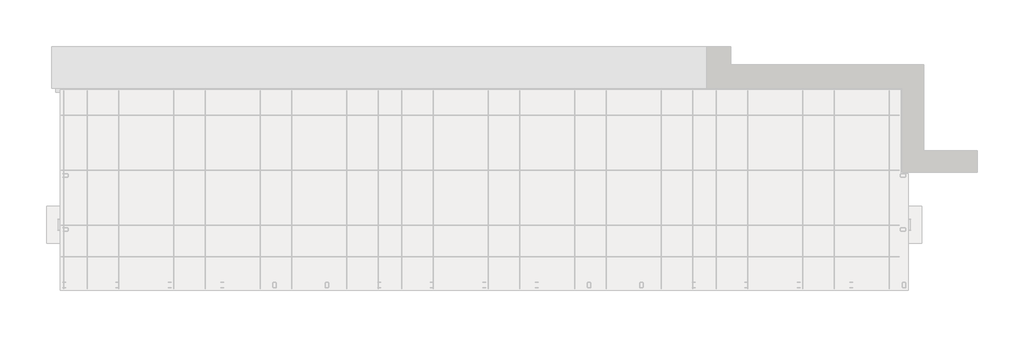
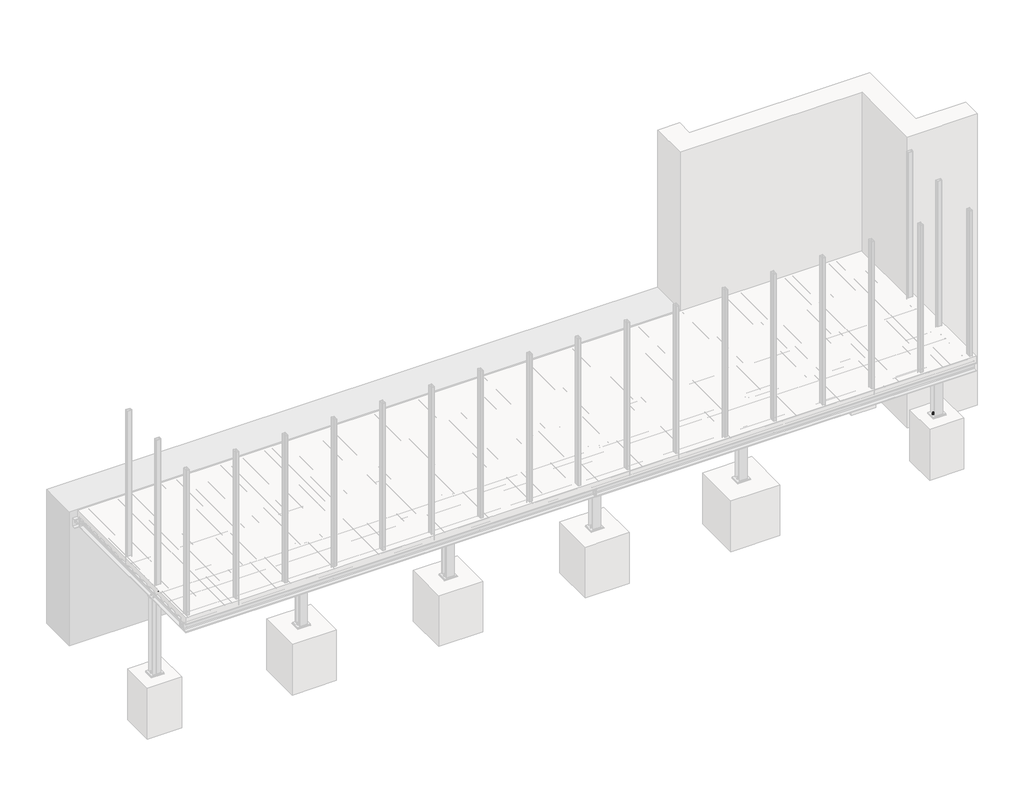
# One storey, part 19 of 36: 12 assemblies, 4 proxies.
"""IFC4 building model written with IfcOpenShell, lengths in millimetres."""

from ifc_helpers import new_model, si_unit, point, frame, frame_2d, origin, place, context, project, spatial, polyline, circle_curve, trimmed, segment, composite_curve, outline, extrude, faceted_brep, element, save

model = new_model("IFC4")

# Units and contexts
model_context = context("Model", 3, world=origin())
ifc_project = project(units=[si_unit("LENGTHUNIT", "METRE", prefix="MILLI")], contexts=[model_context])

# Site, building, storey
site = spatial("IfcSite", under=ifc_project)
building = spatial("IfcBuilding", under=site)
storey = spatial("IfcBuildingStorey", under=building, Name="Základy", Elevation=-1200.0)

# Proxies
placement = place(None, origin())
element("IfcBuildingElementProxy", 1, Name="PLECH", ObjectType="PLECH", at=placement, inside=storey, context=model_context, shape_type="SweptSolid", body=[
    extrude(outline(polyline([(16140.0, 1346.0), (16140.0, 1174.0), (15960.0, 1174.0), (15960.0, 1346.0), (16140.0, 1346.0)])), frame((0.0, 0.0, -350.0), z_axis=(0.0, 0.0, 1.0), x_axis=(1.0, 0.0, 0.0)), (0.0, 0.0, 1.0), 10.0),
])
element("IfcBuildingElementProxy", 2, Name="PLECH", ObjectType="PLECH", at=placement, inside=storey, context=model_context, shape_type="SweptSolid", body=[
    extrude(outline(composite_curve([segment(polyline([(-174.0, 15960.0), (-326.0, 15960.0), (-326.0, 16020.5)]), True, "CONTINUOUS"), segment(trimmed(circle_curve(frame_2d((-326.0, 16045.5)), 25.0), [point((-326.0, 16020.5))], [point((-301.0, 16045.5))], True, "CARTESIAN"), True, "CONTINUOUS"), segment(polyline([(-301.0, 16045.5), (-199.0, 16045.5)]), True, "CONTINUOUS"), segment(trimmed(circle_curve(frame_2d((-174.0, 16045.5)), 25.0), [point((-199.0, 16045.5))], [point((-174.0, 16020.5))], True, "CARTESIAN"), True, "CONTINUOUS"), segment(polyline([(-174.0, 16020.5), (-174.0, 15960.0)]), True, "CONTINUOUS")], self_intersect=False)), frame((0.0, 1256.0, 0.0), z_axis=(0.0, 1.0, 0.0), x_axis=(0.0, 0.0, 1.0)), (0.0, 0.0, 1.0), 8.0),
])
element("IfcBuildingElementProxy", 3, Name="Bolt assembly", ObjectType="Bolt assembly", at=placement, inside=storey, context=model_context, shape_type="SweptSolid", body=[
    extrude(outline(polyline([(15982.7364934, 1260.0), (15978.8682467, 1253.3000002), (15971.1317533, 1253.3000002), (15967.2635066, 1260.0), (15971.1317533, 1266.6999998), (15978.8682467, 1266.6999998), (15982.7364934, 1260.0)])), frame((0.0, 0.0, -2122.0), z_axis=(0.0, 0.0, 1.0), x_axis=(1.0, 0.0, 0.0)), (0.0, 0.0, 1.0), 132.0),
    extrude(outline(composite_curve([segment(trimmed(circle_curve(frame_2d((15975.0, 1260.0)), 8.0), [point((15983.0, 1260.0))], [point((15967.0, 1260.0))], False, "CARTESIAN"), True, "CONTINUOUS"), segment(trimmed(circle_curve(frame_2d((15975.0, 1260.0)), 8.0), [point((15967.0, 1260.0))], [point((15983.0, 1260.0))], False, "CARTESIAN"), True, "CONTINUOUS")], self_intersect=False)), frame((0.0, 0.0, -1990.0), z_axis=(0.0, 0.0, 1.0), x_axis=(1.0, 0.0, 0.0)), (0.0, 0.0, 1.0), 58.0),
    extrude(outline(composite_curve([segment(trimmed(circle_curve(frame_2d((15975.0, 1260.0)), 15.0), [point((15990.0, 1260.0))], [point((15960.0, 1260.0))], False, "CARTESIAN"), True, "CONTINUOUS"), segment(trimmed(circle_curve(frame_2d((15975.0, 1260.0)), 15.0), [point((15960.0, 1260.0))], [point((15990.0, 1260.0))], False, "CARTESIAN"), True, "CONTINUOUS")], self_intersect=False)), frame((0.0, 0.0, -1975.0), z_axis=(0.0, 0.0, 1.0), x_axis=(1.0, 0.0, 0.0)), (0.0, 0.0, 1.0), 3.0),
    extrude(outline(polyline([(15990.4441197, 1260.0), (15982.7220599, 1246.625), (15967.2779401, 1246.625), (15959.5558803, 1260.0), (15967.2779401, 1273.375), (15982.7220599, 1273.375), (15990.4441197, 1260.0)])), frame((0.0, 0.0, -1972.0), z_axis=(0.0, 0.0, 1.0), x_axis=(1.0, 0.0, 0.0)), (0.0, 0.0, 1.0), 13.0),
    extrude(outline(composite_curve([segment(trimmed(circle_curve(frame_2d((15975.0, 1260.0)), 9.0), [point((15984.0, 1260.0))], [point((15966.0, 1260.0))], False, "CARTESIAN"), True, "CONTINUOUS"), segment(trimmed(circle_curve(frame_2d((15975.0, 1260.0)), 9.0), [point((15966.0, 1260.0))], [point((15984.0, 1260.0))], False, "CARTESIAN"), True, "CONTINUOUS")], self_intersect=False)), frame((0.0, 0.0, -1990.0), z_axis=(0.0, 0.0, 1.0), x_axis=(1.0, 0.0, 0.0)), (0.0, 0.0, 1.0), 15.1),
    extrude(outline(polyline([(16132.7364934, 1260.0), (16128.8682467, 1253.3000002), (16121.1317533, 1253.3000002), (16117.2635066, 1260.0), (16121.1317533, 1266.6999998), (16128.8682467, 1266.6999998), (16132.7364934, 1260.0)])), frame((0.0, 0.0, -2122.0), z_axis=(0.0, 0.0, 1.0), x_axis=(1.0, 0.0, 0.0)), (0.0, 0.0, 1.0), 132.0),
    extrude(outline(composite_curve([segment(trimmed(circle_curve(frame_2d((16125.0, 1260.0)), 8.0), [point((16133.0, 1260.0))], [point((16117.0, 1260.0))], False, "CARTESIAN"), True, "CONTINUOUS"), segment(trimmed(circle_curve(frame_2d((16125.0, 1260.0)), 8.0), [point((16117.0, 1260.0))], [point((16133.0, 1260.0))], False, "CARTESIAN"), True, "CONTINUOUS")], self_intersect=False)), frame((0.0, 0.0, -1990.0), z_axis=(0.0, 0.0, 1.0), x_axis=(1.0, 0.0, 0.0)), (0.0, 0.0, 1.0), 58.0),
    extrude(outline(composite_curve([segment(trimmed(circle_curve(frame_2d((16125.0, 1260.0)), 15.0), [point((16140.0, 1260.0))], [point((16110.0, 1260.0))], False, "CARTESIAN"), True, "CONTINUOUS"), segment(trimmed(circle_curve(frame_2d((16125.0, 1260.0)), 15.0), [point((16110.0, 1260.0))], [point((16140.0, 1260.0))], False, "CARTESIAN"), True, "CONTINUOUS")], self_intersect=False)), frame((0.0, 0.0, -1975.0), z_axis=(0.0, 0.0, 1.0), x_axis=(1.0, 0.0, 0.0)), (0.0, 0.0, 1.0), 3.0),
    extrude(outline(polyline([(16140.4441197, 1260.0), (16132.7220599, 1246.625), (16117.2779401, 1246.625), (16109.5558803, 1260.0), (16117.2779401, 1273.375), (16132.7220599, 1273.375), (16140.4441197, 1260.0)])), frame((0.0, 0.0, -1972.0), z_axis=(0.0, 0.0, 1.0), x_axis=(1.0, 0.0, 0.0)), (0.0, 0.0, 1.0), 13.0),
    extrude(outline(composite_curve([segment(trimmed(circle_curve(frame_2d((16125.0, 1260.0)), 9.0), [point((16134.0, 1260.0))], [point((16116.0, 1260.0))], False, "CARTESIAN"), True, "CONTINUOUS"), segment(trimmed(circle_curve(frame_2d((16125.0, 1260.0)), 9.0), [point((16116.0, 1260.0))], [point((16134.0, 1260.0))], False, "CARTESIAN"), True, "CONTINUOUS")], self_intersect=False)), frame((0.0, 0.0, -1990.0), z_axis=(0.0, 0.0, 1.0), x_axis=(1.0, 0.0, 0.0)), (0.0, 0.0, 1.0), 15.1),
])
element("IfcBuildingElementProxy", 4, Name="Bolt assembly", ObjectType="Bolt assembly", at=placement, inside=storey, context=model_context, shape_type="SweptSolid", body=[
    extrude(outline(composite_curve([segment(trimmed(circle_curve(frame_2d((16000.0, 1220.0)), 6.5), [point((16006.5, 1220.0))], [point((15993.5, 1220.0))], False, "CARTESIAN"), True, "CONTINUOUS"), segment(trimmed(circle_curve(frame_2d((16000.0, 1220.0)), 6.5), [point((15993.5, 1220.0))], [point((16006.5, 1220.0))], False, "CARTESIAN"), True, "CONTINUOUS")], self_intersect=False)), frame((0.0, 0.0, -350.0), z_axis=(0.0, 0.0, 1.0), x_axis=(1.0, 0.0, 0.0)), (0.0, 0.0, 1.0), 10.1),
    extrude(outline(polyline([(16010.3923048, 1220.0), (16005.1961524, 1211.0), (15994.8038476, 1211.0), (15989.6076952, 1220.0), (15994.8038476, 1229.0), (16005.1961524, 1229.0), (16010.3923048, 1220.0)])), frame((0.0, 0.0, -323.5), z_axis=(0.0, 0.0, 1.0), x_axis=(1.0, 0.0, 0.0)), (0.0, 0.0, 1.0), 7.5),
    extrude(outline(composite_curve([segment(trimmed(circle_curve(frame_2d((16000.0, 1220.0)), 6.0), [point((16006.0, 1220.0))], [point((15994.0, 1220.0))], False, "CARTESIAN"), True, "CONTINUOUS"), segment(trimmed(circle_curve(frame_2d((16000.0, 1220.0)), 6.0), [point((15994.0, 1220.0))], [point((16006.0, 1220.0))], False, "CARTESIAN"), True, "CONTINUOUS")], self_intersect=False)), frame((0.0, 0.0, -368.5), z_axis=(0.0, 0.0, 1.0), x_axis=(1.0, 0.0, 0.0)), (0.0, 0.0, 1.0), 45.0),
    extrude(outline(composite_curve([segment(trimmed(circle_curve(frame_2d((16000.0, 1220.0)), 12.0), [point((16012.0, 1220.0))], [point((15988.0, 1220.0))], False, "CARTESIAN"), True, "CONTINUOUS"), segment(trimmed(circle_curve(frame_2d((16000.0, 1220.0)), 12.0), [point((15988.0, 1220.0))], [point((16012.0, 1220.0))], False, "CARTESIAN"), True, "CONTINUOUS")], self_intersect=False)), frame((0.0, 0.0, -326.0), z_axis=(0.0, 0.0, 1.0), x_axis=(1.0, 0.0, 0.0)), (0.0, 0.0, 1.0), 2.5),
    extrude(outline(composite_curve([segment(trimmed(circle_curve(frame_2d((16000.0, 1220.0)), 12.0), [point((16012.0, 1220.0))], [point((15988.0, 1220.0))], False, "CARTESIAN"), True, "CONTINUOUS"), segment(trimmed(circle_curve(frame_2d((16000.0, 1220.0)), 12.0), [point((15988.0, 1220.0))], [point((16012.0, 1220.0))], False, "CARTESIAN"), True, "CONTINUOUS")], self_intersect=False)), frame((0.0, 0.0, -352.5), z_axis=(0.0, 0.0, 1.0), x_axis=(1.0, 0.0, 0.0)), (0.0, 0.0, 1.0), 2.5),
    extrude(outline(polyline([(16010.9696551, 1220.0), (16005.4848276, 1210.5), (15994.5151724, 1210.5), (15989.0303449, 1220.0), (15994.5151724, 1229.5), (16005.4848276, 1229.5), (16010.9696551, 1220.0)])), frame((0.0, 0.0, -362.5), z_axis=(0.0, 0.0, 1.0), x_axis=(1.0, 0.0, 0.0)), (0.0, 0.0, 1.0), 10.0),
    extrude(outline(composite_curve([segment(trimmed(circle_curve(frame_2d((16000.0, 1220.0)), 6.5), [point((16006.5, 1220.0))], [point((15993.5, 1220.0))], False, "CARTESIAN"), True, "CONTINUOUS"), segment(trimmed(circle_curve(frame_2d((16000.0, 1220.0)), 6.5), [point((15993.5, 1220.0))], [point((16006.5, 1220.0))], False, "CARTESIAN"), True, "CONTINUOUS")], self_intersect=False)), frame((0.0, 0.0, -340.1), z_axis=(0.0, 0.0, 1.0), x_axis=(1.0, 0.0, 0.0)), (0.0, 0.0, 1.0), 14.0),
    extrude(outline(composite_curve([segment(trimmed(circle_curve(frame_2d((16100.0, 1220.0)), 6.5), [point((16106.5, 1220.0))], [point((16093.5, 1220.0))], False, "CARTESIAN"), True, "CONTINUOUS"), segment(trimmed(circle_curve(frame_2d((16100.0, 1220.0)), 6.5), [point((16093.5, 1220.0))], [point((16106.5, 1220.0))], False, "CARTESIAN"), True, "CONTINUOUS")], self_intersect=False)), frame((0.0, 0.0, -350.0), z_axis=(0.0, 0.0, 1.0), x_axis=(1.0, 0.0, 0.0)), (0.0, 0.0, 1.0), 10.1),
    extrude(outline(polyline([(16110.3923048, 1220.0), (16105.1961524, 1211.0), (16094.8038476, 1211.0), (16089.6076952, 1220.0), (16094.8038476, 1229.0), (16105.1961524, 1229.0), (16110.3923048, 1220.0)])), frame((0.0, 0.0, -323.5), z_axis=(0.0, 0.0, 1.0), x_axis=(1.0, 0.0, 0.0)), (0.0, 0.0, 1.0), 7.5),
    extrude(outline(composite_curve([segment(trimmed(circle_curve(frame_2d((16100.0, 1220.0)), 6.0), [point((16106.0, 1220.0))], [point((16094.0, 1220.0))], False, "CARTESIAN"), True, "CONTINUOUS"), segment(trimmed(circle_curve(frame_2d((16100.0, 1220.0)), 6.0), [point((16094.0, 1220.0))], [point((16106.0, 1220.0))], False, "CARTESIAN"), True, "CONTINUOUS")], self_intersect=False)), frame((0.0, 0.0, -368.5), z_axis=(0.0, 0.0, 1.0), x_axis=(1.0, 0.0, 0.0)), (0.0, 0.0, 1.0), 45.0),
    extrude(outline(composite_curve([segment(trimmed(circle_curve(frame_2d((16100.0, 1220.0)), 12.0), [point((16112.0, 1220.0))], [point((16088.0, 1220.0))], False, "CARTESIAN"), True, "CONTINUOUS"), segment(trimmed(circle_curve(frame_2d((16100.0, 1220.0)), 12.0), [point((16088.0, 1220.0))], [point((16112.0, 1220.0))], False, "CARTESIAN"), True, "CONTINUOUS")], self_intersect=False)), frame((0.0, 0.0, -326.0), z_axis=(0.0, 0.0, 1.0), x_axis=(1.0, 0.0, 0.0)), (0.0, 0.0, 1.0), 2.5),
    extrude(outline(composite_curve([segment(trimmed(circle_curve(frame_2d((16100.0, 1220.0)), 12.0), [point((16112.0, 1220.0))], [point((16088.0, 1220.0))], False, "CARTESIAN"), True, "CONTINUOUS"), segment(trimmed(circle_curve(frame_2d((16100.0, 1220.0)), 12.0), [point((16088.0, 1220.0))], [point((16112.0, 1220.0))], False, "CARTESIAN"), True, "CONTINUOUS")], self_intersect=False)), frame((0.0, 0.0, -352.5), z_axis=(0.0, 0.0, 1.0), x_axis=(1.0, 0.0, 0.0)), (0.0, 0.0, 1.0), 2.5),
    extrude(outline(polyline([(16110.9696551, 1220.0), (16105.4848276, 1210.5), (16094.5151724, 1210.5), (16089.0303449, 1220.0), (16094.5151724, 1229.5), (16105.4848276, 1229.5), (16110.9696551, 1220.0)])), frame((0.0, 0.0, -362.5), z_axis=(0.0, 0.0, 1.0), x_axis=(1.0, 0.0, 0.0)), (0.0, 0.0, 1.0), 10.0),
    extrude(outline(composite_curve([segment(trimmed(circle_curve(frame_2d((16100.0, 1220.0)), 6.5), [point((16106.5, 1220.0))], [point((16093.5, 1220.0))], False, "CARTESIAN"), True, "CONTINUOUS"), segment(trimmed(circle_curve(frame_2d((16100.0, 1220.0)), 6.5), [point((16093.5, 1220.0))], [point((16106.5, 1220.0))], False, "CARTESIAN"), True, "CONTINUOUS")], self_intersect=False)), frame((0.0, 0.0, -340.1), z_axis=(0.0, 0.0, 1.0), x_axis=(1.0, 0.0, 0.0)), (0.0, 0.0, 1.0), 14.0),
    extrude(outline(composite_curve([segment(trimmed(circle_curve(frame_2d((16000.0, 1300.0)), 6.5), [point((16006.5, 1300.0))], [point((15993.5, 1300.0))], False, "CARTESIAN"), True, "CONTINUOUS"), segment(trimmed(circle_curve(frame_2d((16000.0, 1300.0)), 6.5), [point((15993.5, 1300.0))], [point((16006.5, 1300.0))], False, "CARTESIAN"), True, "CONTINUOUS")], self_intersect=False)), frame((0.0, 0.0, -350.0), z_axis=(0.0, 0.0, 1.0), x_axis=(1.0, 0.0, 0.0)), (0.0, 0.0, 1.0), 10.1),
    extrude(outline(polyline([(16010.3923048, 1300.0), (16005.1961524, 1291.0), (15994.8038476, 1291.0), (15989.6076952, 1300.0), (15994.8038476, 1309.0), (16005.1961524, 1309.0), (16010.3923048, 1300.0)])), frame((0.0, 0.0, -323.5), z_axis=(0.0, 0.0, 1.0), x_axis=(1.0, 0.0, 0.0)), (0.0, 0.0, 1.0), 7.5),
    extrude(outline(composite_curve([segment(trimmed(circle_curve(frame_2d((16000.0, 1300.0)), 6.0), [point((16006.0, 1300.0))], [point((15994.0, 1300.0))], False, "CARTESIAN"), True, "CONTINUOUS"), segment(trimmed(circle_curve(frame_2d((16000.0, 1300.0)), 6.0), [point((15994.0, 1300.0))], [point((16006.0, 1300.0))], False, "CARTESIAN"), True, "CONTINUOUS")], self_intersect=False)), frame((0.0, 0.0, -368.5), z_axis=(0.0, 0.0, 1.0), x_axis=(1.0, 0.0, 0.0)), (0.0, 0.0, 1.0), 45.0),
    extrude(outline(composite_curve([segment(trimmed(circle_curve(frame_2d((16000.0, 1300.0)), 12.0), [point((16012.0, 1300.0))], [point((15988.0, 1300.0))], False, "CARTESIAN"), True, "CONTINUOUS"), segment(trimmed(circle_curve(frame_2d((16000.0, 1300.0)), 12.0), [point((15988.0, 1300.0))], [point((16012.0, 1300.0))], False, "CARTESIAN"), True, "CONTINUOUS")], self_intersect=False)), frame((0.0, 0.0, -326.0), z_axis=(0.0, 0.0, 1.0), x_axis=(1.0, 0.0, 0.0)), (0.0, 0.0, 1.0), 2.5),
    extrude(outline(composite_curve([segment(trimmed(circle_curve(frame_2d((16000.0, 1300.0)), 12.0), [point((16012.0, 1300.0))], [point((15988.0, 1300.0))], False, "CARTESIAN"), True, "CONTINUOUS"), segment(trimmed(circle_curve(frame_2d((16000.0, 1300.0)), 12.0), [point((15988.0, 1300.0))], [point((16012.0, 1300.0))], False, "CARTESIAN"), True, "CONTINUOUS")], self_intersect=False)), frame((0.0, 0.0, -352.5), z_axis=(0.0, 0.0, 1.0), x_axis=(1.0, 0.0, 0.0)), (0.0, 0.0, 1.0), 2.5),
    extrude(outline(polyline([(16010.9696551, 1300.0), (16005.4848276, 1290.5), (15994.5151724, 1290.5), (15989.0303449, 1300.0), (15994.5151724, 1309.5), (16005.4848276, 1309.5), (16010.9696551, 1300.0)])), frame((0.0, 0.0, -362.5), z_axis=(0.0, 0.0, 1.0), x_axis=(1.0, 0.0, 0.0)), (0.0, 0.0, 1.0), 10.0),
    extrude(outline(composite_curve([segment(trimmed(circle_curve(frame_2d((16000.0, 1300.0)), 6.5), [point((16006.5, 1300.0))], [point((15993.5, 1300.0))], False, "CARTESIAN"), True, "CONTINUOUS"), segment(trimmed(circle_curve(frame_2d((16000.0, 1300.0)), 6.5), [point((15993.5, 1300.0))], [point((16006.5, 1300.0))], False, "CARTESIAN"), True, "CONTINUOUS")], self_intersect=False)), frame((0.0, 0.0, -340.1), z_axis=(0.0, 0.0, 1.0), x_axis=(1.0, 0.0, 0.0)), (0.0, 0.0, 1.0), 14.0),
    extrude(outline(composite_curve([segment(trimmed(circle_curve(frame_2d((16100.0, 1300.0)), 6.5), [point((16106.5, 1300.0))], [point((16093.5, 1300.0))], False, "CARTESIAN"), True, "CONTINUOUS"), segment(trimmed(circle_curve(frame_2d((16100.0, 1300.0)), 6.5), [point((16093.5, 1300.0))], [point((16106.5, 1300.0))], False, "CARTESIAN"), True, "CONTINUOUS")], self_intersect=False)), frame((0.0, 0.0, -350.0), z_axis=(0.0, 0.0, 1.0), x_axis=(1.0, 0.0, 0.0)), (0.0, 0.0, 1.0), 10.1),
    extrude(outline(polyline([(16110.3923048, 1300.0), (16105.1961524, 1291.0), (16094.8038476, 1291.0), (16089.6076952, 1300.0), (16094.8038476, 1309.0), (16105.1961524, 1309.0), (16110.3923048, 1300.0)])), frame((0.0, 0.0, -323.5), z_axis=(0.0, 0.0, 1.0), x_axis=(1.0, 0.0, 0.0)), (0.0, 0.0, 1.0), 7.5),
    extrude(outline(composite_curve([segment(trimmed(circle_curve(frame_2d((16100.0, 1300.0)), 6.0), [point((16106.0, 1300.0))], [point((16094.0, 1300.0))], False, "CARTESIAN"), True, "CONTINUOUS"), segment(trimmed(circle_curve(frame_2d((16100.0, 1300.0)), 6.0), [point((16094.0, 1300.0))], [point((16106.0, 1300.0))], False, "CARTESIAN"), True, "CONTINUOUS")], self_intersect=False)), frame((0.0, 0.0, -368.5), z_axis=(0.0, 0.0, 1.0), x_axis=(1.0, 0.0, 0.0)), (0.0, 0.0, 1.0), 45.0),
    extrude(outline(composite_curve([segment(trimmed(circle_curve(frame_2d((16100.0, 1300.0)), 12.0), [point((16112.0, 1300.0))], [point((16088.0, 1300.0))], False, "CARTESIAN"), True, "CONTINUOUS"), segment(trimmed(circle_curve(frame_2d((16100.0, 1300.0)), 12.0), [point((16088.0, 1300.0))], [point((16112.0, 1300.0))], False, "CARTESIAN"), True, "CONTINUOUS")], self_intersect=False)), frame((0.0, 0.0, -326.0), z_axis=(0.0, 0.0, 1.0), x_axis=(1.0, 0.0, 0.0)), (0.0, 0.0, 1.0), 2.5),
    extrude(outline(composite_curve([segment(trimmed(circle_curve(frame_2d((16100.0, 1300.0)), 12.0), [point((16112.0, 1300.0))], [point((16088.0, 1300.0))], False, "CARTESIAN"), True, "CONTINUOUS"), segment(trimmed(circle_curve(frame_2d((16100.0, 1300.0)), 12.0), [point((16088.0, 1300.0))], [point((16112.0, 1300.0))], False, "CARTESIAN"), True, "CONTINUOUS")], self_intersect=False)), frame((0.0, 0.0, -352.5), z_axis=(0.0, 0.0, 1.0), x_axis=(1.0, 0.0, 0.0)), (0.0, 0.0, 1.0), 2.5),
    extrude(outline(polyline([(16110.9696551, 1300.0), (16105.4848276, 1290.5), (16094.5151724, 1290.5), (16089.0303449, 1300.0), (16094.5151724, 1309.5), (16105.4848276, 1309.5), (16110.9696551, 1300.0)])), frame((0.0, 0.0, -362.5), z_axis=(0.0, 0.0, 1.0), x_axis=(1.0, 0.0, 0.0)), (0.0, 0.0, 1.0), 10.0),
    extrude(outline(composite_curve([segment(trimmed(circle_curve(frame_2d((16100.0, 1300.0)), 6.5), [point((16106.5, 1300.0))], [point((16093.5, 1300.0))], False, "CARTESIAN"), True, "CONTINUOUS"), segment(trimmed(circle_curve(frame_2d((16100.0, 1300.0)), 6.5), [point((16093.5, 1300.0))], [point((16106.5, 1300.0))], False, "CARTESIAN"), True, "CONTINUOUS")], self_intersect=False)), frame((0.0, 0.0, -340.1), z_axis=(0.0, 0.0, 1.0), x_axis=(1.0, 0.0, 0.0)), (0.0, 0.0, 1.0), 14.0),
])

# Assemblies
element("IfcElementAssembly", 5, at=placement, inside=storey, context=model_context, shape_type="SweptSolid", body=[
    extrude(outline(composite_curve([segment(polyline([(10.0, 1146.4), (10.0, 1193.6)]), True, "CONTINUOUS"), segment(trimmed(circle_curve(frame_2d((16.4, 1193.6)), 6.4), [point((10.0, 1193.6))], [point((16.4, 1200.0))], False, "CARTESIAN"), True, "CONTINUOUS"), segment(polyline([(16.4, 1200.0), (103.6, 1200.0)]), True, "CONTINUOUS"), segment(trimmed(circle_curve(frame_2d((103.6, 1193.6)), 6.4), [point((103.6, 1200.0))], [point((110.0, 1193.6))], False, "CARTESIAN"), True, "CONTINUOUS"), segment(polyline([(110.0, 1193.6), (110.0, 1146.4)]), True, "CONTINUOUS"), segment(trimmed(circle_curve(frame_2d((103.6, 1146.4)), 6.4), [point((110.0, 1146.4))], [point((103.6, 1140.0))], False, "CARTESIAN"), True, "CONTINUOUS"), segment(polyline([(103.6, 1140.0), (16.4, 1140.0)]), True, "CONTINUOUS"), segment(trimmed(circle_curve(frame_2d((16.4, 1146.4)), 6.4), [point((16.4, 1140.0))], [point((10.0, 1146.4))], False, "CARTESIAN"), True, "CONTINUOUS")], self_intersect=False), holes=[composite_curve([segment(trimmed(circle_curve(frame_2d((16.4, 1146.4)), 3.2), [point((13.2, 1146.4))], [point((16.4, 1143.2))], True, "CARTESIAN"), True, "CONTINUOUS"), segment(polyline([(16.4, 1143.2), (103.6, 1143.2)]), True, "CONTINUOUS"), segment(trimmed(circle_curve(frame_2d((103.6, 1146.4)), 3.2), [point((103.6, 1143.2))], [point((106.8, 1146.4))], True, "CARTESIAN"), True, "CONTINUOUS"), segment(polyline([(106.8, 1146.4), (106.8, 1193.6)]), True, "CONTINUOUS"), segment(trimmed(circle_curve(frame_2d((103.6, 1193.6)), 3.2), [point((106.8, 1193.6))], [point((103.6, 1196.8))], True, "CARTESIAN"), True, "CONTINUOUS"), segment(polyline([(103.6, 1196.8), (16.4, 1196.8)]), True, "CONTINUOUS"), segment(trimmed(circle_curve(frame_2d((16.4, 1193.6)), 3.2), [point((16.4, 1196.8))], [point((13.2, 1193.6))], True, "CARTESIAN"), True, "CONTINUOUS"), segment(polyline([(13.2, 1193.6), (13.2, 1146.4)]), True, "CONTINUOUS")], self_intersect=False)]), frame((0.0, 0.0, -160.0), z_axis=(0.0, 0.0, 1.0), x_axis=(1.0, 0.0, 0.0)), (0.0, 0.0, 1.0), 3280.0),
])
element("IfcElementAssembly", 6, at=placement, inside=storey, context=model_context, shape_type="SweptSolid", body=[
    extrude(outline(polyline([(400.0, 1610.0), (400.0, 910.0), (-300.0, 910.0), (-300.0, 1610.0), (400.0, 1610.0)])), frame((0.0, 0.0, -3100.0), z_axis=(0.0, 0.0, 1.0), x_axis=(1.0, 0.0, 0.0)), (0.0, 0.0, 1.0), 1100.0),
])
element("IfcElementAssembly", 7, at=placement, inside=storey, context=model_context, shape_type="SweptSolid", body=[
    extrude(outline(polyline([(802.7875602, -160.0099992), (772.2875602, -111.5000008), (637.6975638, -111.5000008), (607.1975638, -160.0000008), (552.7875754, -160.0000008), (522.2875754, -111.5000008), (387.6975715, -111.5000008), (357.1975715, -160.0000008), (302.7875697, -160.0000008), (272.2875716, -111.5000008), (160.0, -111.5000008), (160.0, -110.7500008), (272.6975715, -110.7500008), (303.1975695, -159.2500008), (356.7875716, -159.2500008), (387.2875678, -110.7500008), (522.6975638, -110.7500008), (553.1975638, -159.2500008), (606.7875602, -159.2500008), (637.2875602, -110.7500008), (772.6975638, -110.7500008), (803.1975638, -159.2500008), (839.9975821, -160.0000008), (802.7875602, -160.0099992)])), frame((-40.0, 0.0, 0.0), z_axis=(1.0, 0.0, 0.0), x_axis=(0.0, 1.0, 0.0)), (0.0, 0.0, 1.0), 3180.0),
])
element("IfcElementAssembly", 8, at=placement, inside=storey, context=model_context, shape_type="SweptSolid", body=[
    extrude(outline(composite_curve([segment(polyline([(1073.6, 60.0), (1026.4, 60.0)]), True, "CONTINUOUS"), segment(trimmed(circle_curve(frame_2d((1026.4, 66.4)), 6.4), [point((1026.4, 60.0))], [point((1020.0, 66.4))], False, "CARTESIAN"), True, "CONTINUOUS"), segment(polyline([(1020.0, 66.4), (1020.0, 153.6)]), True, "CONTINUOUS"), segment(trimmed(circle_curve(frame_2d((1026.4, 153.6)), 6.4), [point((1020.0, 153.6))], [point((1026.4, 160.0))], False, "CARTESIAN"), True, "CONTINUOUS"), segment(polyline([(1026.4, 160.0), (1073.6, 160.0)]), True, "CONTINUOUS"), segment(trimmed(circle_curve(frame_2d((1073.6, 153.6)), 6.4), [point((1073.6, 160.0))], [point((1080.0, 153.6))], False, "CARTESIAN"), True, "CONTINUOUS"), segment(polyline([(1080.0, 153.6), (1080.0, 66.4)]), True, "CONTINUOUS"), segment(trimmed(circle_curve(frame_2d((1073.6, 66.4)), 6.4), [point((1080.0, 66.4))], [point((1073.6, 60.0))], False, "CARTESIAN"), True, "CONTINUOUS")], self_intersect=False), holes=[composite_curve([segment(trimmed(circle_curve(frame_2d((1073.6, 66.4)), 3.2), [point((1073.6, 63.2))], [point((1076.8, 66.4))], True, "CARTESIAN"), True, "CONTINUOUS"), segment(polyline([(1076.8, 66.4), (1076.8, 153.6)]), True, "CONTINUOUS"), segment(trimmed(circle_curve(frame_2d((1073.6, 153.6)), 3.2), [point((1076.8, 153.6))], [point((1073.6, 156.8))], True, "CARTESIAN"), True, "CONTINUOUS"), segment(polyline([(1073.6, 156.8), (1026.4, 156.8)]), True, "CONTINUOUS"), segment(trimmed(circle_curve(frame_2d((1026.4, 153.6)), 3.2), [point((1026.4, 156.8))], [point((1023.2, 153.6))], True, "CARTESIAN"), True, "CONTINUOUS"), segment(polyline([(1023.2, 153.6), (1023.2, 66.4)]), True, "CONTINUOUS"), segment(trimmed(circle_curve(frame_2d((1026.4, 66.4)), 3.2), [point((1023.2, 66.4))], [point((1026.4, 63.2))], True, "CARTESIAN"), True, "CONTINUOUS"), segment(polyline([(1026.4, 63.2), (1073.6, 63.2)]), True, "CONTINUOUS")], self_intersect=False)]), frame((0.0, 0.0, -160.0), z_axis=(0.0, 0.0, 1.0), x_axis=(1.0, 0.0, 0.0)), (0.0, 0.0, 1.0), 3320.0),
])
element("IfcElementAssembly", 9, at=placement, inside=storey, context=model_context, shape_type="SweptSolid", body=[
    extrude(outline(composite_curve([segment(polyline([(63.6, 60.0), (16.4, 60.0)]), True, "CONTINUOUS"), segment(trimmed(circle_curve(frame_2d((16.4, 66.4)), 6.4), [point((16.4, 60.0))], [point((10.0, 66.4))], False, "CARTESIAN"), True, "CONTINUOUS"), segment(polyline([(10.0, 66.4), (10.0, 153.6)]), True, "CONTINUOUS"), segment(trimmed(circle_curve(frame_2d((16.4, 153.6)), 6.4), [point((10.0, 153.6))], [point((16.4, 160.0))], False, "CARTESIAN"), True, "CONTINUOUS"), segment(polyline([(16.4, 160.0), (63.6, 160.0)]), True, "CONTINUOUS"), segment(trimmed(circle_curve(frame_2d((63.6, 153.6)), 6.4), [point((63.6, 160.0))], [point((70.0, 153.6))], False, "CARTESIAN"), True, "CONTINUOUS"), segment(polyline([(70.0, 153.6), (70.0, 66.4)]), True, "CONTINUOUS"), segment(trimmed(circle_curve(frame_2d((63.6, 66.4)), 6.4), [point((70.0, 66.4))], [point((63.6, 60.0))], False, "CARTESIAN"), True, "CONTINUOUS")], self_intersect=False), holes=[composite_curve([segment(trimmed(circle_curve(frame_2d((63.6, 66.4)), 3.2), [point((63.6, 63.2))], [point((66.8, 66.4))], True, "CARTESIAN"), True, "CONTINUOUS"), segment(polyline([(66.8, 66.4), (66.8, 153.6)]), True, "CONTINUOUS"), segment(trimmed(circle_curve(frame_2d((63.6, 153.6)), 3.2), [point((66.8, 153.6))], [point((63.6, 156.8))], True, "CARTESIAN"), True, "CONTINUOUS"), segment(polyline([(63.6, 156.8), (16.4, 156.8)]), True, "CONTINUOUS"), segment(trimmed(circle_curve(frame_2d((16.4, 153.6)), 3.2), [point((16.4, 156.8))], [point((13.2, 153.6))], True, "CARTESIAN"), True, "CONTINUOUS"), segment(polyline([(13.2, 153.6), (13.2, 66.4)]), True, "CONTINUOUS"), segment(trimmed(circle_curve(frame_2d((16.4, 66.4)), 3.2), [point((13.2, 66.4))], [point((16.4, 63.2))], True, "CARTESIAN"), True, "CONTINUOUS"), segment(polyline([(16.4, 63.2), (63.6, 63.2)]), True, "CONTINUOUS")], self_intersect=False)]), frame((0.0, 0.0, -160.0), z_axis=(0.0, 0.0, 1.0), x_axis=(1.0, 0.0, 0.0)), (0.0, 0.0, 1.0), 3280.0),
])
element("IfcElementAssembly", 10, at=placement, inside=storey, context=model_context, shape_type="SweptSolid", body=[
    extrude(outline(composite_curve([segment(polyline([(-340.0, -40.0), (-340.0, 140.0), (-326.0, 140.0), (-326.0, 69.25)]), True, "CONTINUOUS"), segment(trimmed(circle_curve(frame_2d((-311.0, 69.25)), 15.0), [point((-326.0, 69.25))], [point((-311.0, 54.25))], True, "CARTESIAN"), True, "CONTINUOUS"), segment(polyline([(-311.0, 54.25), (-189.0, 54.25)]), True, "CONTINUOUS"), segment(trimmed(circle_curve(frame_2d((-189.0, 69.25)), 15.0), [point((-189.0, 54.25))], [point((-174.0, 69.25))], True, "CARTESIAN"), True, "CONTINUOUS"), segment(polyline([(-174.0, 69.25), (-174.0, 140.0), (-160.0, 140.0), (-160.0, -40.0), (-174.0, -40.0), (-174.0, 30.75)]), True, "CONTINUOUS"), segment(trimmed(circle_curve(frame_2d((-189.0, 30.75)), 15.0), [point((-174.0, 30.75))], [point((-189.0, 45.75))], True, "CARTESIAN"), True, "CONTINUOUS"), segment(polyline([(-189.0, 45.75), (-311.0, 45.75)]), True, "CONTINUOUS"), segment(trimmed(circle_curve(frame_2d((-311.0, 30.75)), 15.0), [point((-311.0, 45.75))], [point((-326.0, 30.75))], True, "CARTESIAN"), True, "CONTINUOUS"), segment(polyline([(-326.0, 30.75), (-326.0, -40.0), (-340.0, -40.0)]), True, "CONTINUOUS")], self_intersect=False)), frame((0.0, 210.0, 0.0), z_axis=(0.0, 1.0, 0.0), x_axis=(0.0, 0.0, 1.0)), (0.0, 0.0, 1.0), 3557.0),
    extrude(outline(polyline([(-40.0, 3775.0), (140.0, 3775.0), (140.0, 3767.0), (-40.0, 3767.0), (-40.0, 3775.0)])), frame((0.0, 0.0, -316.0), z_axis=(0.0, 0.0, 1.0), x_axis=(1.0, 0.0, 0.0)), (0.0, 0.0, 1.0), 132.0),
    extrude(outline(polyline([(140.0, 1200.0), (140.0, 1320.0), (150.0, 1320.0), (150.0, 1200.0), (140.0, 1200.0)])), frame((0.0, 0.0, -332.0), z_axis=(0.0, 0.0, 1.0), x_axis=(1.0, 0.0, 0.0)), (0.0, 0.0, 1.0), 164.0),
    extrude(outline(composite_curve([segment(polyline([(-174.0, 140.0), (-174.0, 79.5)]), True, "CONTINUOUS"), segment(trimmed(circle_curve(frame_2d((-174.0, 54.5)), 25.0), [point((-174.0, 79.5))], [point((-199.0, 54.5))], True, "CARTESIAN"), True, "CONTINUOUS"), segment(polyline([(-199.0, 54.5), (-301.0, 54.5)]), True, "CONTINUOUS"), segment(trimmed(circle_curve(frame_2d((-326.0, 54.5)), 25.0), [point((-301.0, 54.5))], [point((-326.0, 79.5))], True, "CARTESIAN"), True, "CONTINUOUS"), segment(polyline([(-326.0, 79.5), (-326.0, 140.0), (-174.0, 140.0)]), True, "CONTINUOUS")], self_intersect=False)), frame((0.0, 1256.0, 0.0), z_axis=(0.0, 1.0, 0.0), x_axis=(0.0, 0.0, 1.0)), (0.0, 0.0, 1.0), 8.0),
    extrude(outline(polyline([(-40.0, 210.0), (140.0, 210.0), (140.0, 200.0), (-40.0, 200.0), (-40.0, 210.0)])), frame((0.0, 0.0, -332.0), z_axis=(0.0, 0.0, 1.0), x_axis=(1.0, 0.0, 0.0)), (0.0, 0.0, 1.0), 164.0),
    extrude(outline(composite_curve([segment(trimmed(circle_curve(frame_2d((1230.0, -225.0)), 6.5), [point((1230.0, -231.5))], [point((1230.0, -218.5))], False, "CARTESIAN"), True, "CONTINUOUS"), segment(trimmed(circle_curve(frame_2d((1230.0, -225.0)), 6.5), [point((1230.0, -218.5))], [point((1230.0, -231.5))], False, "CARTESIAN"), True, "CONTINUOUS")], self_intersect=False)), frame((140.1, 0.0, 0.0), z_axis=(1.0, 0.0, 0.0), x_axis=(0.0, 1.0, 0.0)), (0.0, 0.0, 1.0), 10.0),
    extrude(outline(polyline([(1230.0, -235.3923048), (1221.0, -230.1961524), (1221.0, -219.8038476), (1230.0, -214.6076952), (1239.0, -219.8038476), (1239.0, -230.1961524), (1230.0, -235.3923048)])), frame((130.0, 0.0, 0.0), z_axis=(1.0, 0.0, 0.0), x_axis=(0.0, 1.0, 0.0)), (0.0, 0.0, 1.0), 7.5),
    extrude(outline(composite_curve([segment(trimmed(circle_curve(frame_2d((1230.0, -225.0)), 6.0), [point((1230.0, -231.0))], [point((1230.0, -219.0))], False, "CARTESIAN"), True, "CONTINUOUS"), segment(trimmed(circle_curve(frame_2d((1230.0, -225.0)), 6.0), [point((1230.0, -219.0))], [point((1230.0, -231.0))], False, "CARTESIAN"), True, "CONTINUOUS")], self_intersect=False)), frame((137.5, 0.0, 0.0), z_axis=(1.0, 0.0, 0.0), x_axis=(0.0, 1.0, 0.0)), (0.0, 0.0, 1.0), 40.0),
    extrude(outline(composite_curve([segment(trimmed(circle_curve(frame_2d((1230.0, -225.0)), 12.0), [point((1230.0, -237.0))], [point((1230.0, -213.0))], False, "CARTESIAN"), True, "CONTINUOUS"), segment(trimmed(circle_curve(frame_2d((1230.0, -225.0)), 12.0), [point((1230.0, -213.0))], [point((1230.0, -237.0))], False, "CARTESIAN"), True, "CONTINUOUS")], self_intersect=False)), frame((137.5, 0.0, 0.0), z_axis=(1.0, 0.0, 0.0), x_axis=(0.0, 1.0, 0.0)), (0.0, 0.0, 1.0), 2.5),
    extrude(outline(composite_curve([segment(trimmed(circle_curve(frame_2d((1230.0, -225.0)), 12.0), [point((1230.0, -237.0))], [point((1230.0, -213.0))], False, "CARTESIAN"), True, "CONTINUOUS"), segment(trimmed(circle_curve(frame_2d((1230.0, -225.0)), 12.0), [point((1230.0, -213.0))], [point((1230.0, -237.0))], False, "CARTESIAN"), True, "CONTINUOUS")], self_intersect=False)), frame((160.0, 0.0, 0.0), z_axis=(1.0, 0.0, 0.0), x_axis=(0.0, 1.0, 0.0)), (0.0, 0.0, 1.0), 2.5),
    extrude(outline(polyline([(1230.0, -235.9696551), (1220.5, -230.4848276), (1220.5, -219.5151724), (1230.0, -214.0303449), (1239.5, -219.5151724), (1239.5, -230.4848276), (1230.0, -235.9696551)])), frame((162.5, 0.0, 0.0), z_axis=(1.0, 0.0, 0.0), x_axis=(0.0, 1.0, 0.0)), (0.0, 0.0, 1.0), 10.0),
    extrude(outline(composite_curve([segment(trimmed(circle_curve(frame_2d((1230.0, -225.0)), 6.5), [point((1230.0, -231.5))], [point((1230.0, -218.5))], False, "CARTESIAN"), True, "CONTINUOUS"), segment(trimmed(circle_curve(frame_2d((1230.0, -225.0)), 6.5), [point((1230.0, -218.5))], [point((1230.0, -231.5))], False, "CARTESIAN"), True, "CONTINUOUS")], self_intersect=False)), frame((149.9, 0.0, 0.0), z_axis=(1.0, 0.0, 0.0), x_axis=(0.0, 1.0, 0.0)), (0.0, 0.0, 1.0), 10.1),
    extrude(outline(composite_curve([segment(trimmed(circle_curve(frame_2d((1230.0, -275.0)), 6.5), [point((1230.0, -281.5))], [point((1230.0, -268.5))], False, "CARTESIAN"), True, "CONTINUOUS"), segment(trimmed(circle_curve(frame_2d((1230.0, -275.0)), 6.5), [point((1230.0, -268.5))], [point((1230.0, -281.5))], False, "CARTESIAN"), True, "CONTINUOUS")], self_intersect=False)), frame((140.1, 0.0, 0.0), z_axis=(1.0, 0.0, 0.0), x_axis=(0.0, 1.0, 0.0)), (0.0, 0.0, 1.0), 10.0),
    extrude(outline(polyline([(1230.0, -285.3923048), (1221.0, -280.1961524), (1221.0, -269.8038476), (1230.0, -264.6076952), (1239.0, -269.8038476), (1239.0, -280.1961524), (1230.0, -285.3923048)])), frame((130.0, 0.0, 0.0), z_axis=(1.0, 0.0, 0.0), x_axis=(0.0, 1.0, 0.0)), (0.0, 0.0, 1.0), 7.5),
    extrude(outline(composite_curve([segment(trimmed(circle_curve(frame_2d((1230.0, -275.0)), 6.0), [point((1230.0, -281.0))], [point((1230.0, -269.0))], False, "CARTESIAN"), True, "CONTINUOUS"), segment(trimmed(circle_curve(frame_2d((1230.0, -275.0)), 6.0), [point((1230.0, -269.0))], [point((1230.0, -281.0))], False, "CARTESIAN"), True, "CONTINUOUS")], self_intersect=False)), frame((137.5, 0.0, 0.0), z_axis=(1.0, 0.0, 0.0), x_axis=(0.0, 1.0, 0.0)), (0.0, 0.0, 1.0), 40.0),
    extrude(outline(composite_curve([segment(trimmed(circle_curve(frame_2d((1230.0, -275.0)), 12.0), [point((1230.0, -287.0))], [point((1230.0, -263.0))], False, "CARTESIAN"), True, "CONTINUOUS"), segment(trimmed(circle_curve(frame_2d((1230.0, -275.0)), 12.0), [point((1230.0, -263.0))], [point((1230.0, -287.0))], False, "CARTESIAN"), True, "CONTINUOUS")], self_intersect=False)), frame((137.5, 0.0, 0.0), z_axis=(1.0, 0.0, 0.0), x_axis=(0.0, 1.0, 0.0)), (0.0, 0.0, 1.0), 2.5),
    extrude(outline(composite_curve([segment(trimmed(circle_curve(frame_2d((1230.0, -275.0)), 12.0), [point((1230.0, -287.0))], [point((1230.0, -263.0))], False, "CARTESIAN"), True, "CONTINUOUS"), segment(trimmed(circle_curve(frame_2d((1230.0, -275.0)), 12.0), [point((1230.0, -263.0))], [point((1230.0, -287.0))], False, "CARTESIAN"), True, "CONTINUOUS")], self_intersect=False)), frame((160.0, 0.0, 0.0), z_axis=(1.0, 0.0, 0.0), x_axis=(0.0, 1.0, 0.0)), (0.0, 0.0, 1.0), 2.5),
    extrude(outline(polyline([(1230.0, -285.9696551), (1220.5, -280.4848276), (1220.5, -269.5151724), (1230.0, -264.0303449), (1239.5, -269.5151724), (1239.5, -280.4848276), (1230.0, -285.9696551)])), frame((162.5, 0.0, 0.0), z_axis=(1.0, 0.0, 0.0), x_axis=(0.0, 1.0, 0.0)), (0.0, 0.0, 1.0), 10.0),
    extrude(outline(composite_curve([segment(trimmed(circle_curve(frame_2d((1230.0, -275.0)), 6.5), [point((1230.0, -281.5))], [point((1230.0, -268.5))], False, "CARTESIAN"), True, "CONTINUOUS"), segment(trimmed(circle_curve(frame_2d((1230.0, -275.0)), 6.5), [point((1230.0, -268.5))], [point((1230.0, -281.5))], False, "CARTESIAN"), True, "CONTINUOUS")], self_intersect=False)), frame((149.9, 0.0, 0.0), z_axis=(1.0, 0.0, 0.0), x_axis=(0.0, 1.0, 0.0)), (0.0, 0.0, 1.0), 10.1),
    extrude(outline(composite_curve([segment(trimmed(circle_curve(frame_2d((1290.0, -225.0)), 6.5), [point((1290.0, -231.5))], [point((1290.0, -218.5))], False, "CARTESIAN"), True, "CONTINUOUS"), segment(trimmed(circle_curve(frame_2d((1290.0, -225.0)), 6.5), [point((1290.0, -218.5))], [point((1290.0, -231.5))], False, "CARTESIAN"), True, "CONTINUOUS")], self_intersect=False)), frame((140.1, 0.0, 0.0), z_axis=(1.0, 0.0, 0.0), x_axis=(0.0, 1.0, 0.0)), (0.0, 0.0, 1.0), 10.0),
    extrude(outline(polyline([(1290.0, -235.3923048), (1281.0, -230.1961524), (1281.0, -219.8038476), (1290.0, -214.6076952), (1299.0, -219.8038476), (1299.0, -230.1961524), (1290.0, -235.3923048)])), frame((130.0, 0.0, 0.0), z_axis=(1.0, 0.0, 0.0), x_axis=(0.0, 1.0, 0.0)), (0.0, 0.0, 1.0), 7.5),
    extrude(outline(composite_curve([segment(trimmed(circle_curve(frame_2d((1290.0, -225.0)), 6.0), [point((1290.0, -231.0))], [point((1290.0, -219.0))], False, "CARTESIAN"), True, "CONTINUOUS"), segment(trimmed(circle_curve(frame_2d((1290.0, -225.0)), 6.0), [point((1290.0, -219.0))], [point((1290.0, -231.0))], False, "CARTESIAN"), True, "CONTINUOUS")], self_intersect=False)), frame((137.5, 0.0, 0.0), z_axis=(1.0, 0.0, 0.0), x_axis=(0.0, 1.0, 0.0)), (0.0, 0.0, 1.0), 40.0),
    extrude(outline(composite_curve([segment(trimmed(circle_curve(frame_2d((1290.0, -225.0)), 12.0), [point((1290.0, -237.0))], [point((1290.0, -213.0))], False, "CARTESIAN"), True, "CONTINUOUS"), segment(trimmed(circle_curve(frame_2d((1290.0, -225.0)), 12.0), [point((1290.0, -213.0))], [point((1290.0, -237.0))], False, "CARTESIAN"), True, "CONTINUOUS")], self_intersect=False)), frame((137.5, 0.0, 0.0), z_axis=(1.0, 0.0, 0.0), x_axis=(0.0, 1.0, 0.0)), (0.0, 0.0, 1.0), 2.5),
    extrude(outline(composite_curve([segment(trimmed(circle_curve(frame_2d((1290.0, -225.0)), 12.0), [point((1290.0, -237.0))], [point((1290.0, -213.0))], False, "CARTESIAN"), True, "CONTINUOUS"), segment(trimmed(circle_curve(frame_2d((1290.0, -225.0)), 12.0), [point((1290.0, -213.0))], [point((1290.0, -237.0))], False, "CARTESIAN"), True, "CONTINUOUS")], self_intersect=False)), frame((160.0, 0.0, 0.0), z_axis=(1.0, 0.0, 0.0), x_axis=(0.0, 1.0, 0.0)), (0.0, 0.0, 1.0), 2.5),
    extrude(outline(polyline([(1290.0, -235.9696551), (1280.5, -230.4848276), (1280.5, -219.5151724), (1290.0, -214.0303449), (1299.5, -219.5151724), (1299.5, -230.4848276), (1290.0, -235.9696551)])), frame((162.5, 0.0, 0.0), z_axis=(1.0, 0.0, 0.0), x_axis=(0.0, 1.0, 0.0)), (0.0, 0.0, 1.0), 10.0),
    extrude(outline(composite_curve([segment(trimmed(circle_curve(frame_2d((1290.0, -225.0)), 6.5), [point((1290.0, -231.5))], [point((1290.0, -218.5))], False, "CARTESIAN"), True, "CONTINUOUS"), segment(trimmed(circle_curve(frame_2d((1290.0, -225.0)), 6.5), [point((1290.0, -218.5))], [point((1290.0, -231.5))], False, "CARTESIAN"), True, "CONTINUOUS")], self_intersect=False)), frame((149.9, 0.0, 0.0), z_axis=(1.0, 0.0, 0.0), x_axis=(0.0, 1.0, 0.0)), (0.0, 0.0, 1.0), 10.1),
    extrude(outline(composite_curve([segment(trimmed(circle_curve(frame_2d((1290.0, -275.0)), 6.5), [point((1290.0, -281.5))], [point((1290.0, -268.5))], False, "CARTESIAN"), True, "CONTINUOUS"), segment(trimmed(circle_curve(frame_2d((1290.0, -275.0)), 6.5), [point((1290.0, -268.5))], [point((1290.0, -281.5))], False, "CARTESIAN"), True, "CONTINUOUS")], self_intersect=False)), frame((140.1, 0.0, 0.0), z_axis=(1.0, 0.0, 0.0), x_axis=(0.0, 1.0, 0.0)), (0.0, 0.0, 1.0), 10.0),
    extrude(outline(polyline([(1290.0, -285.3923048), (1281.0, -280.1961524), (1281.0, -269.8038476), (1290.0, -264.6076952), (1299.0, -269.8038476), (1299.0, -280.1961524), (1290.0, -285.3923048)])), frame((130.0, 0.0, 0.0), z_axis=(1.0, 0.0, 0.0), x_axis=(0.0, 1.0, 0.0)), (0.0, 0.0, 1.0), 7.5),
    extrude(outline(composite_curve([segment(trimmed(circle_curve(frame_2d((1290.0, -275.0)), 6.0), [point((1290.0, -281.0))], [point((1290.0, -269.0))], False, "CARTESIAN"), True, "CONTINUOUS"), segment(trimmed(circle_curve(frame_2d((1290.0, -275.0)), 6.0), [point((1290.0, -269.0))], [point((1290.0, -281.0))], False, "CARTESIAN"), True, "CONTINUOUS")], self_intersect=False)), frame((137.5, 0.0, 0.0), z_axis=(1.0, 0.0, 0.0), x_axis=(0.0, 1.0, 0.0)), (0.0, 0.0, 1.0), 40.0),
    extrude(outline(composite_curve([segment(trimmed(circle_curve(frame_2d((1290.0, -275.0)), 12.0), [point((1290.0, -287.0))], [point((1290.0, -263.0))], False, "CARTESIAN"), True, "CONTINUOUS"), segment(trimmed(circle_curve(frame_2d((1290.0, -275.0)), 12.0), [point((1290.0, -263.0))], [point((1290.0, -287.0))], False, "CARTESIAN"), True, "CONTINUOUS")], self_intersect=False)), frame((137.5, 0.0, 0.0), z_axis=(1.0, 0.0, 0.0), x_axis=(0.0, 1.0, 0.0)), (0.0, 0.0, 1.0), 2.5),
    extrude(outline(composite_curve([segment(trimmed(circle_curve(frame_2d((1290.0, -275.0)), 12.0), [point((1290.0, -287.0))], [point((1290.0, -263.0))], False, "CARTESIAN"), True, "CONTINUOUS"), segment(trimmed(circle_curve(frame_2d((1290.0, -275.0)), 12.0), [point((1290.0, -263.0))], [point((1290.0, -287.0))], False, "CARTESIAN"), True, "CONTINUOUS")], self_intersect=False)), frame((160.0, 0.0, 0.0), z_axis=(1.0, 0.0, 0.0), x_axis=(0.0, 1.0, 0.0)), (0.0, 0.0, 1.0), 2.5),
    extrude(outline(polyline([(1290.0, -285.9696551), (1280.5, -280.4848276), (1280.5, -269.5151724), (1290.0, -264.0303449), (1299.5, -269.5151724), (1299.5, -280.4848276), (1290.0, -285.9696551)])), frame((162.5, 0.0, 0.0), z_axis=(1.0, 0.0, 0.0), x_axis=(0.0, 1.0, 0.0)), (0.0, 0.0, 1.0), 10.0),
    extrude(outline(composite_curve([segment(trimmed(circle_curve(frame_2d((1290.0, -275.0)), 6.5), [point((1290.0, -281.5))], [point((1290.0, -268.5))], False, "CARTESIAN"), True, "CONTINUOUS"), segment(trimmed(circle_curve(frame_2d((1290.0, -275.0)), 6.5), [point((1290.0, -268.5))], [point((1290.0, -281.5))], False, "CARTESIAN"), True, "CONTINUOUS")], self_intersect=False)), frame((149.9, 0.0, 0.0), z_axis=(1.0, 0.0, 0.0), x_axis=(0.0, 1.0, 0.0)), (0.0, 0.0, 1.0), 10.1),
])
element("IfcElementAssembly", 11, at=placement, inside=storey, context=model_context, shape_type="Brep", body=[
    faceted_brep([(-75.0, 1356.0, -1990.0), (-75.0, 1164.0, -1990.0), (175.0, 1164.0, -1990.0), (175.0, 1356.0, -1990.0), (185.0, 1154.0, -2000.0), (-85.0, 1154.0, -2000.0), (-85.0, 1366.0, -2000.0), (185.0, 1366.0, -2000.0)], [[[0, 1, 2, 3]], [[4, 5, 6, 7]], [[5, 4, 2, 1]], [[1, 0, 6, 5]], [[7, 6, 0, 3]], [[3, 2, 4, 7]]]),
])
element("IfcElementAssembly", 12, at=placement, inside=storey, context=model_context, shape_type="SweptSolid", body=[
    extrude(outline(composite_curve([segment(trimmed(circle_curve(frame_2d((-49.0, 27.5)), 4.0), [point((-49.0, 23.5))], [point((-49.0, 31.5))], False, "CARTESIAN"), True, "CONTINUOUS"), segment(trimmed(circle_curve(frame_2d((-49.0, 27.5)), 4.0), [point((-49.0, 31.5))], [point((-49.0, 23.5))], False, "CARTESIAN"), True, "CONTINUOUS")], self_intersect=False)), frame((0.0, 35.0, 0.0), z_axis=(0.0, 1.0, 0.0), x_axis=(0.0, 0.0, 1.0)), (0.0, 0.0, 1.0), 3780.0),
])
element("IfcElementAssembly", 13, at=placement, inside=storey, context=model_context, shape_type="SweptSolid", body=[
    extrude(outline(composite_curve([segment(trimmed(circle_curve(frame_2d((-49.0, 177.5)), 4.0), [point((-49.0, 173.5))], [point((-49.0, 181.5))], False, "CARTESIAN"), True, "CONTINUOUS"), segment(trimmed(circle_curve(frame_2d((-49.0, 177.5)), 4.0), [point((-49.0, 181.5))], [point((-49.0, 173.5))], False, "CARTESIAN"), True, "CONTINUOUS")], self_intersect=False)), frame((0.0, 35.0, 0.0), z_axis=(0.0, 1.0, 0.0), x_axis=(0.0, 0.0, 1.0)), (0.0, 0.0, 1.0), 3780.0),
])
element("IfcElementAssembly", 14, at=placement, inside=storey, context=model_context, shape_type="SweptSolid", body=[
    extrude(outline(composite_curve([segment(trimmed(circle_curve(frame_2d((-49.0, 327.5)), 4.0), [point((-49.0, 323.5))], [point((-49.0, 331.5))], False, "CARTESIAN"), True, "CONTINUOUS"), segment(trimmed(circle_curve(frame_2d((-49.0, 327.5)), 4.0), [point((-49.0, 331.5))], [point((-49.0, 323.5))], False, "CARTESIAN"), True, "CONTINUOUS")], self_intersect=False)), frame((0.0, 35.0, 0.0), z_axis=(0.0, 1.0, 0.0), x_axis=(0.0, 0.0, 1.0)), (0.0, 0.0, 1.0), 3780.0),
])
element("IfcElementAssembly", 15, at=placement, inside=storey, context=model_context, shape_type="SweptSolid", body=[
    extrude(outline(composite_curve([segment(trimmed(circle_curve(frame_2d((-49.0, 477.5)), 4.0), [point((-49.0, 473.5))], [point((-49.0, 481.5))], False, "CARTESIAN"), True, "CONTINUOUS"), segment(trimmed(circle_curve(frame_2d((-49.0, 477.5)), 4.0), [point((-49.0, 481.5))], [point((-49.0, 473.5))], False, "CARTESIAN"), True, "CONTINUOUS")], self_intersect=False)), frame((0.0, 35.0, 0.0), z_axis=(0.0, 1.0, 0.0), x_axis=(0.0, 0.0, 1.0)), (0.0, 0.0, 1.0), 3780.0),
])
element("IfcElementAssembly", 16, at=placement, inside=storey, context=model_context, shape_type="SweptSolid", body=[
    extrude(outline(composite_curve([segment(trimmed(circle_curve(frame_2d((-49.0, 627.5)), 4.0), [point((-49.0, 623.5))], [point((-49.0, 631.5))], False, "CARTESIAN"), True, "CONTINUOUS"), segment(trimmed(circle_curve(frame_2d((-49.0, 627.5)), 4.0), [point((-49.0, 631.5))], [point((-49.0, 623.5))], False, "CARTESIAN"), True, "CONTINUOUS")], self_intersect=False)), frame((0.0, 35.0, 0.0), z_axis=(0.0, 1.0, 0.0), x_axis=(0.0, 0.0, 1.0)), (0.0, 0.0, 1.0), 3780.0),
])

save(model, "model.ifc")
